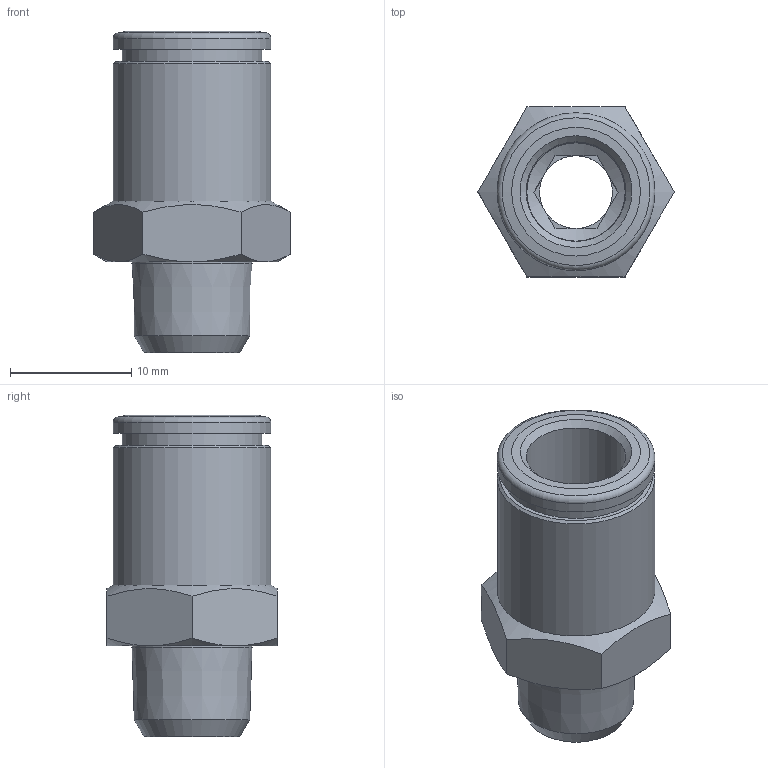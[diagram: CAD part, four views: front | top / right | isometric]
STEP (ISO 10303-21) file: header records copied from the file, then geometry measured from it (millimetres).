
FILE_DESCRIPTION(/* description */ (''),/* implementation_level */ '2;1');
FILE_NAME(/* name */ '200156-ES_STX01K_8_R18_19.05.16',/* time_stamp */ '2016-05-19T10:13:20+02:00',/* author */ (''),/* organization */ (''),/* preprocessor_version */ 'ST-DEVELOPER v14',/* originating_system */ 'HiCAD 2013 1802.4 Build 509',/* authorisation */ '');
FILE_SCHEMA (('AUTOMOTIVE_DESIGN { 1 0 10303 214 1 1 1 1 }'));
Length unit declared in the file: millimetre
Products named in the file (3): Root; R200156-ES-N1; DR8-1_NEU
Assembly tree (2 placements, depth 2):
  Root
    R200156-ES-N1
    DR8-1_NEU
Bounding box: 16.17 x 14 x 26.5 mm (x, y, z)
Volume: 1745.6 mm3; surface area: 2506.2 mm2
Topology: 2 solids, 2 shells, 54 faces, 115 edges, 68 vertices
Faces by surface type: plane 25, cone 18, cylinder 10, torus 1
Full cylindrical faces by diameter (mm): 6 x1, 8.1 x1, 8.2 x1, 9.884 x1, 10.1 x1, 11 x1, 11.5 x1, 11.6 x1, 13 x2
Entity records: 2308 total; most frequent: DIRECTION 268, CARTESIAN_POINT 210, PRESENTATION_STYLE_ASSIGNMENT 186, OVER_RIDING_STYLED_ITEM 184, COLOUR_RGB 178, DRAUGHTING_PRE_DEFINED_CURVE_FONT 176, CURVE_STYLE 176, ORIENTED_EDGE 176
